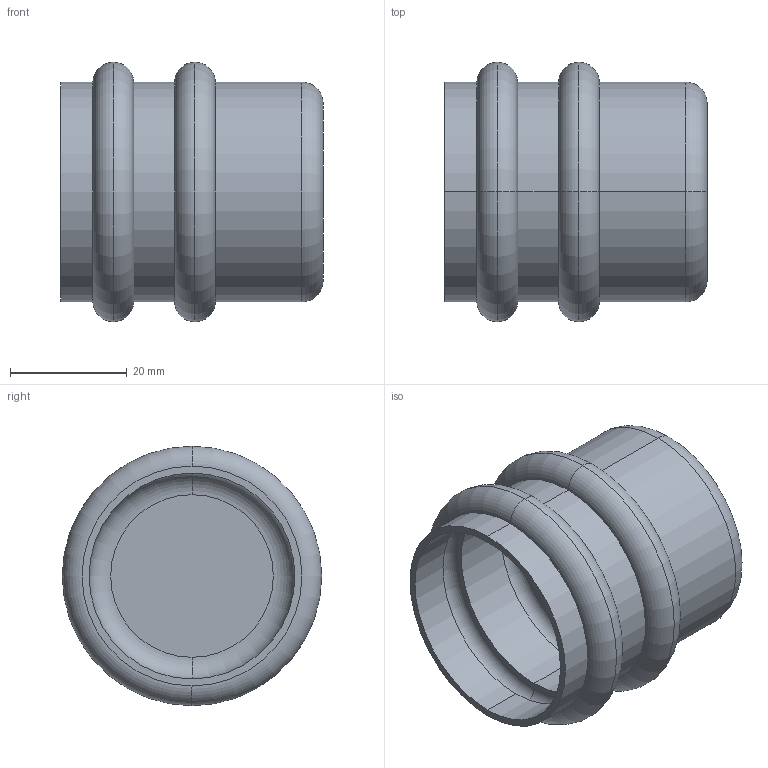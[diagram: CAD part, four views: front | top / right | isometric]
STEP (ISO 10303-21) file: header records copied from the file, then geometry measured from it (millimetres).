
FILE_DESCRIPTION(('starvars output'),'1');
FILE_NAME('cv20240422105120000011665.stp','10:51:21 2024/04/22',('Thomas Industrial Network Germany GmbH'),(' '),'Spatial InterOp 3D',' ',' ');
FILE_SCHEMA(('AUTOMOTIVE_DESIGN { 1 0 10303 214 3 1 1 }'));
Length unit declared in the file: millimetre
Products named in the file (1): 1
Bounding box: 45 x 44.5 x 44.5 mm (x, y, z)
Volume: 9182.1 mm3; surface area: 14597.2 mm2
Topology: 1 solids, 1 shells, 43 faces, 84 edges, 52 vertices
Faces by surface type: torus 20, cylinder 12, plane 11
Entity records: 1502 total; most frequent: DIRECTION 244, CARTESIAN_POINT 180, ORIENTED_EDGE 168, AXIS2_PLACEMENT_3D 116, EDGE_CURVE 84, CIRCLE 72, EDGE_LOOP 52, VERTEX_POINT 52
